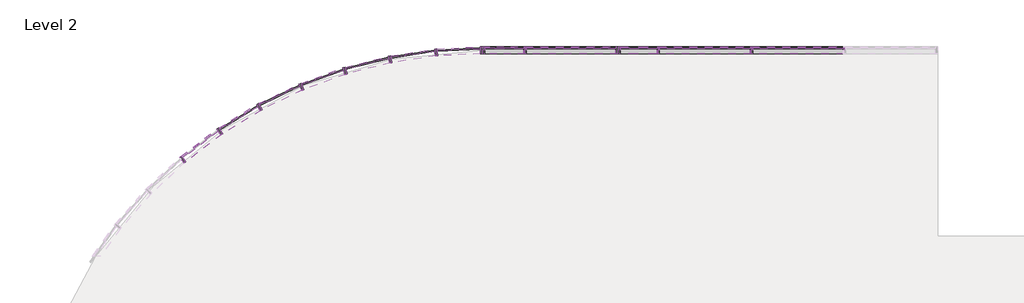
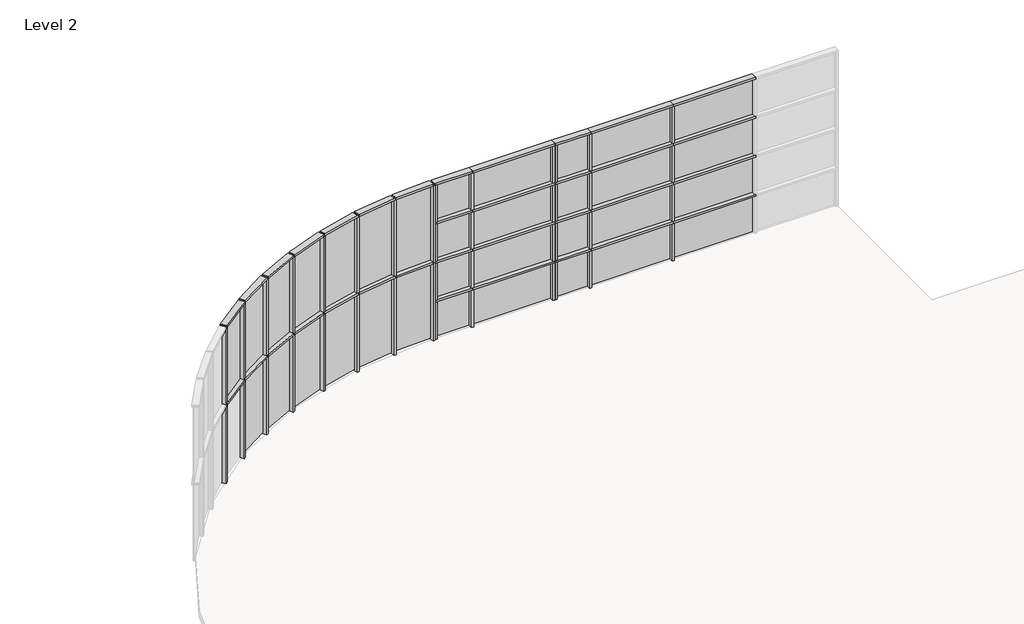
# One storey, part 5 of 6: 74 members, 33 plates.
"""IFC4 building model written with IfcOpenShell, lengths in millimetres."""

from ifc_helpers import new_model, si_unit, origin, place, context, project, spatial, transform, mapped, element, save
from components import rectangular_mullion_50_x_150mm_a053b0ca, rectangular_mullion_50_x_150mm_aa47fe12, rectangular_mullion_50_x_150mm_3a148f0f, rectangular_mullion_50_x_150mm_12a430f9, rectangular_mullion_50_x_150mm_25f32059, rectangular_mullion_50_x_150mm_f8023bcf, rectangular_mullion_50_x_150mm_9aace082, rectangular_mullion_50_x_150mm_f1bc9ffe, system_panel_glazed_751a585c, system_panel_glazed_08de6f5f, system_panel_glazed_c2d2b348, system_panel_glazed_b9387e44, system_panel_glazed_252945b7, system_panel_glazed_3868a10e

model = new_model("IFC4")

# Units and contexts
model_context = context("Model", 3, world=origin())
ifc_project = project(units=[si_unit("LENGTHUNIT", "METRE", prefix="MILLI")], contexts=[model_context])

# Site, building, storey
site = spatial("IfcSite", under=ifc_project)
building = spatial("IfcBuilding", under=site)
storey = spatial("IfcBuildingStorey", under=building, Name="Level 2", Elevation=4000.0)

# Members
placement = place(None, origin())
rectangular_mullion_50_x_150mm_shape = rectangular_mullion_50_x_150mm_a053b0ca(model_context)
element("IfcMember", 1, ObjectType="Rectangular Mullion : 50 x 150mm", at=placement, inside=storey, context=model_context, shape_type="MappedRepresentation", body=[
    mapped(rectangular_mullion_50_x_150mm_shape, transform((-7587.173406, 8375.9839566, 4025.0), x_axis=(-1.0, 0.0, 0.0), y_axis=(0.0, 1.0, 0.0), z_axis=(0.0, 0.0, -1.0))),
])
element("IfcMember", 2, ObjectType="Rectangular Mullion : 50 x 150mm", at=placement, inside=storey, context=model_context, shape_type="MappedRepresentation", body=[
    mapped(rectangular_mullion_50_x_150mm_shape, transform((-7587.173406, 8375.9839566, 5025.0), x_axis=(-1.0, 0.0, 0.0), y_axis=(0.0, 1.0, 0.0), z_axis=(0.0, 0.0, -0.9999999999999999))),
])
element("IfcMember", 3, ObjectType="Rectangular Mullion : 50 x 150mm", at=placement, inside=storey, context=model_context, shape_type="MappedRepresentation", body=[
    mapped(rectangular_mullion_50_x_150mm_shape, transform((-7587.173406, 8375.9839566, 6025.0), x_axis=(-1.0, 0.0, 0.0), y_axis=(0.0, 1.0, 0.0), z_axis=(0.0, 0.0, -0.9999999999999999))),
])
element("IfcMember", 4, ObjectType="Rectangular Mullion : 50 x 150mm", at=placement, inside=storey, context=model_context, shape_type="MappedRepresentation", body=[
    mapped(rectangular_mullion_50_x_150mm_shape, transform((-7587.173406, 8375.9839566, 7025.0), x_axis=(-1.0, 0.0, 0.0), y_axis=(0.0, 1.0, 0.0), z_axis=(0.0, 0.0, -0.9999999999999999))),
])
element("IfcMember", 5, ObjectType="Rectangular Mullion : 50 x 150mm", at=placement, inside=storey, context=model_context, shape_type="MappedRepresentation", body=[
    mapped(rectangular_mullion_50_x_150mm_shape, transform((-4721.580781, 8375.9839566, 4025.0), x_axis=(-1.0, 0.0, 0.0), y_axis=(0.0, 1.0, 0.0), z_axis=(0.0, 0.0, -1.0))),
])
element("IfcMember", 6, ObjectType="Rectangular Mullion : 50 x 150mm", at=placement, inside=storey, context=model_context, shape_type="MappedRepresentation", body=[
    mapped(rectangular_mullion_50_x_150mm_shape, transform((-4721.580781, 8375.9839566, 5025.0), x_axis=(-1.0, 0.0, 0.0), y_axis=(0.0, 1.0, 0.0), z_axis=(0.0, 0.0, -0.9999999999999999))),
])
element("IfcMember", 7, ObjectType="Rectangular Mullion : 50 x 150mm", at=placement, inside=storey, context=model_context, shape_type="MappedRepresentation", body=[
    mapped(rectangular_mullion_50_x_150mm_shape, transform((-4721.580781, 8375.9839566, 6025.0), x_axis=(-1.0, 0.0, 0.0), y_axis=(0.0, 1.0, 0.0), z_axis=(0.0, 0.0, -0.9999999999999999))),
])
element("IfcMember", 8, ObjectType="Rectangular Mullion : 50 x 150mm", at=placement, inside=storey, context=model_context, shape_type="MappedRepresentation", body=[
    mapped(rectangular_mullion_50_x_150mm_shape, transform((-4721.580781, 8375.9839566, 7025.0), x_axis=(-1.0, 0.0, 0.0), y_axis=(0.0, 1.0, 0.0), z_axis=(0.0, 0.0, -1.0))),
])
element("IfcMember", 9, ObjectType="Rectangular Mullion : 50 x 150mm", at=placement, inside=storey, context=model_context, shape_type="MappedRepresentation", body=[
    mapped(rectangular_mullion_50_x_150mm_shape, transform((-2721.580781, 8375.9839566, 4025.0), x_axis=(-1.0, 0.0, 0.0), y_axis=(0.0, 1.0, 0.0), z_axis=(0.0, 0.0, -1.0))),
])
element("IfcMember", 10, ObjectType="Rectangular Mullion : 50 x 150mm", at=placement, inside=storey, context=model_context, shape_type="MappedRepresentation", body=[
    mapped(rectangular_mullion_50_x_150mm_shape, transform((-2721.580781, 8375.9839566, 5025.0), x_axis=(-1.0, 0.0, 0.0), y_axis=(0.0, 1.0, 0.0), z_axis=(0.0, 0.0, -0.9999999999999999))),
])
element("IfcMember", 11, ObjectType="Rectangular Mullion : 50 x 150mm", at=placement, inside=storey, context=model_context, shape_type="MappedRepresentation", body=[
    mapped(rectangular_mullion_50_x_150mm_shape, transform((-2721.580781, 8375.9839566, 6025.0), x_axis=(-1.0, 0.0, 0.0), y_axis=(0.0, 1.0, 0.0), z_axis=(0.0, 0.0, -0.9999999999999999))),
])
element("IfcMember", 12, ObjectType="Rectangular Mullion : 50 x 150mm", at=placement, inside=storey, context=model_context, shape_type="MappedRepresentation", body=[
    mapped(rectangular_mullion_50_x_150mm_shape, transform((-2721.580781, 8375.9839566, 7025.0), x_axis=(-1.0, 0.0, 0.0), y_axis=(0.0, 1.0, 0.0), z_axis=(0.0, 0.0, -1.0))),
])
rectangular_mullion_50_x_150mm_2_shape = rectangular_mullion_50_x_150mm_aa47fe12(model_context)
element("IfcMember", 13, ObjectType="Rectangular Mullion : 50 x 150mm", at=placement, inside=storey, context=model_context, shape_type="MappedRepresentation", body=[
    mapped(rectangular_mullion_50_x_150mm_2_shape, transform((-8496.7339025, 8375.9839566, 6000.0), x_axis=(0.998749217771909, 0.049999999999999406, 0.0), y_axis=(-0.049999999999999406, 0.998749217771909, 0.0), z_axis=(0.0, 0.0, 1.0))),
])
element("IfcMember", 14, ObjectType="Rectangular Mullion : 50 x 150mm", at=placement, inside=storey, context=model_context, shape_type="MappedRepresentation", body=[
    mapped(rectangular_mullion_50_x_150mm_2_shape, transform((-8496.7339025, 8375.9839566, 8000.0), x_axis=(0.998749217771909, 0.049999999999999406, 0.0), y_axis=(-0.049999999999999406, 0.998749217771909, 0.0), z_axis=(0.0, 0.0, 1.0))),
])
rectangular_mullion_50_x_150mm_3_shape = rectangular_mullion_50_x_150mm_3a148f0f(model_context)
element("IfcMember", 15, ObjectType="Rectangular Mullion : 50 x 150mm", at=placement, inside=storey, context=model_context, shape_type="MappedRepresentation", body=[
    mapped(rectangular_mullion_50_x_150mm_3_shape, transform((-9495.4831202, 8325.9839566, 4000.0), x_axis=(-0.9950000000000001, -0.09987492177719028, 0.0), y_axis=(-0.09987492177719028, 0.9950000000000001, 0.0), z_axis=(0.0, 0.0, -1.0))),
])
element("IfcMember", 16, ObjectType="Rectangular Mullion : 50 x 150mm", at=placement, inside=storey, context=model_context, shape_type="MappedRepresentation", body=[
    mapped(rectangular_mullion_50_x_150mm_3_shape, transform((-9495.4831202, 8325.9839566, 6000.0), x_axis=(-0.9950000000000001, -0.09987492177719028, 0.0), y_axis=(-0.09987492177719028, 0.9950000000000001, 0.0), z_axis=(0.0, 0.0, -1.0))),
])
element("IfcMember", 17, ObjectType="Rectangular Mullion : 50 x 150mm", at=placement, inside=storey, context=model_context, shape_type="MappedRepresentation", body=[
    mapped(rectangular_mullion_50_x_150mm_3_shape, transform((-10484.2448458, 8176.4839566, 4000.0), x_axis=(-0.9800500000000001, -0.1987510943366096, 0.0), y_axis=(-0.1987510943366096, 0.9800500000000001, 0.0), z_axis=(0.0, 0.0, -1.0))),
])
element("IfcMember", 18, ObjectType="Rectangular Mullion : 50 x 150mm", at=placement, inside=storey, context=model_context, shape_type="MappedRepresentation", body=[
    mapped(rectangular_mullion_50_x_150mm_3_shape, transform((-10484.2448458, 8176.4839566, 6000.0), x_axis=(-0.9800500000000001, -0.1987510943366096, 0.0), y_axis=(-0.1987510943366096, 0.9800500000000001, 0.0), z_axis=(0.0, 0.0, -1.0))),
])
element("IfcMember", 19, ObjectType="Rectangular Mullion : 50 x 150mm", at=placement, inside=storey, context=model_context, shape_type="MappedRepresentation", body=[
    mapped(rectangular_mullion_50_x_150mm_3_shape, transform((-11453.131462, 7928.9789566, 4000.0), x_axis=(-0.9552995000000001, -0.29563975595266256, 0.0), y_axis=(-0.29563975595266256, 0.9552995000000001, 0.0), z_axis=(0.0, 0.0, -1.0))),
])
element("IfcMember", 20, ObjectType="Rectangular Mullion : 50 x 150mm", at=placement, inside=storey, context=model_context, shape_type="MappedRepresentation", body=[
    mapped(rectangular_mullion_50_x_150mm_3_shape, transform((-11453.131462, 7928.9789566, 6000.0), x_axis=(-0.9552995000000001, -0.29563975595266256, 0.0), y_axis=(-0.29563975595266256, 0.9552995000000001, 0.0), z_axis=(0.0, 0.0, -1.0))),
])
element("IfcMember", 21, ObjectType="Rectangular Mullion : 50 x 150mm", at=placement, inside=storey, context=model_context, shape_type="MappedRepresentation", body=[
    mapped(rectangular_mullion_50_x_150mm_3_shape, transform((-12392.4541026, 7585.9440066, 4000.0), x_axis=(-0.9209960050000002, -0.38957202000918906, 0.0), y_axis=(-0.38957202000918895, 0.920996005, 0.0), z_axis=(0.0, 0.0, -1.0))),
])
element("IfcMember", 22, ObjectType="Rectangular Mullion : 50 x 150mm", at=placement, inside=storey, context=model_context, shape_type="MappedRepresentation", body=[
    mapped(rectangular_mullion_50_x_150mm_3_shape, transform((-12392.4541026, 7585.9440066, 6000.0), x_axis=(-0.9209960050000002, -0.38957202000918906, 0.0), y_axis=(-0.38957202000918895, 0.920996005, 0.0), z_axis=(0.0, 0.0, -1.0))),
])
element("IfcMember", 23, ObjectType="Rectangular Mullion : 50 x 150mm", at=placement, inside=storey, context=model_context, shape_type="MappedRepresentation", body=[
    mapped(rectangular_mullion_50_x_150mm_3_shape, transform((-13292.8195411, 7150.8094561, 4000.0), x_axis=(-0.87748254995, -0.4796085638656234, 0.0), y_axis=(-0.4796085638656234, 0.87748254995, 0.0), z_axis=(0.0, 0.0, -1.0))),
])
element("IfcMember", 24, ObjectType="Rectangular Mullion : 50 x 150mm", at=placement, inside=storey, context=model_context, shape_type="MappedRepresentation", body=[
    mapped(rectangular_mullion_50_x_150mm_3_shape, transform((-13292.8195411, 7150.8094561, 6000.0), x_axis=(-0.87748254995, -0.4796085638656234, 0.0), y_axis=(-0.4796085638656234, 0.87748254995, 0.0), z_axis=(0.0, 0.0, -1.0))),
])
element("IfcMember", 25, ObjectType="Rectangular Mullion : 50 x 150mm", at=placement, inside=storey, context=model_context, shape_type="MappedRepresentation", body=[
    mapped(rectangular_mullion_50_x_150mm_3_shape, transform((-14145.2241233, 6627.9266506, 4000.0), x_axis=(-0.8251942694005, -0.5648490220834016, 0.0), y_axis=(-0.5648490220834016, 0.8251942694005, 0.0), z_axis=(0.0, 0.0, -1.0))),
])
element("IfcMember", 26, ObjectType="Rectangular Mullion : 50 x 150mm", at=placement, inside=storey, context=model_context, shape_type="MappedRepresentation", body=[
    mapped(rectangular_mullion_50_x_150mm_3_shape, transform((-14145.2241233, 6627.9266506, 6000.0), x_axis=(-0.8251942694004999, -0.564849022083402, 0.0), y_axis=(-0.5648490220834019, 0.8251942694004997, 0.0), z_axis=(0.0, 0.0, -1.0))),
])
element("IfcMember", 27, ObjectType="Rectangular Mullion : 50 x 150mm", at=placement, inside=storey, context=model_context, shape_type="MappedRepresentation", body=[
    mapped(rectangular_mullion_50_x_150mm_3_shape, transform((-14941.1438033, 6022.5244181, 4000.0), x_axis=(-0.7646540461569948, -0.6444409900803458, 0.0), y_axis=(-0.6444409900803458, 0.7646540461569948, 0.0), z_axis=(0.0, 0.0, -1.0))),
])
element("IfcMember", 28, ObjectType="Rectangular Mullion : 50 x 150mm", at=placement, inside=storey, context=model_context, shape_type="MappedRepresentation", body=[
    mapped(rectangular_mullion_50_x_150mm_3_shape, transform((-14941.1438033, 6022.5244181, 6000.0), x_axis=(-0.7646540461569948, -0.6444409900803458, 0.0), y_axis=(-0.6444409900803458, 0.7646540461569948, 0.0), z_axis=(0.0, 0.0, -1.0))),
])
element("IfcMember", 29, ObjectType="Rectangular Mullion : 50 x 150mm", at=placement, inside=storey, context=model_context, shape_type="MappedRepresentation", body=[
    mapped(rectangular_mullion_50_x_150mm_3_shape, transform((-2721.580781, 8375.9839566, 5000.0), x_axis=(0.0, 0.0, 1.0), y_axis=(0.0, 1.0, 0.0), z_axis=(-1.0, 0.0, 0.0))),
])
element("IfcMember", 30, ObjectType="Rectangular Mullion : 50 x 150mm", at=placement, inside=storey, context=model_context, shape_type="MappedRepresentation", body=[
    mapped(rectangular_mullion_50_x_150mm_3_shape, transform((-4721.580781, 8375.9839566, 5000.0), x_axis=(0.0, 0.0, 1.0), y_axis=(0.0, 1.0, 0.0), z_axis=(-1.0, 0.0, 0.0))),
])
element("IfcMember", 31, ObjectType="Rectangular Mullion : 50 x 150mm", at=placement, inside=storey, context=model_context, shape_type="MappedRepresentation", body=[
    mapped(rectangular_mullion_50_x_150mm_3_shape, transform((-2721.580781, 8375.9839566, 6000.0), x_axis=(0.0, 0.0, 1.0), y_axis=(0.0, 1.0, 0.0), z_axis=(-1.0, 0.0, 0.0))),
])
element("IfcMember", 32, ObjectType="Rectangular Mullion : 50 x 150mm", at=placement, inside=storey, context=model_context, shape_type="MappedRepresentation", body=[
    mapped(rectangular_mullion_50_x_150mm_3_shape, transform((-4721.580781, 8375.9839566, 6000.0), x_axis=(0.0, 0.0, 1.0), y_axis=(0.0, 1.0, 0.0), z_axis=(-1.0, 0.0, 0.0))),
])
element("IfcMember", 33, ObjectType="Rectangular Mullion : 50 x 150mm", at=placement, inside=storey, context=model_context, shape_type="MappedRepresentation", body=[
    mapped(rectangular_mullion_50_x_150mm_3_shape, transform((-2721.580781, 8375.9839566, 7000.0), x_axis=(0.0, 0.0, 1.0), y_axis=(0.0, 1.0, 0.0), z_axis=(-1.0, 0.0, 0.0))),
])
element("IfcMember", 34, ObjectType="Rectangular Mullion : 50 x 150mm", at=placement, inside=storey, context=model_context, shape_type="MappedRepresentation", body=[
    mapped(rectangular_mullion_50_x_150mm_3_shape, transform((-4721.580781, 8375.9839566, 7000.0), x_axis=(0.0, 0.0, 1.0), y_axis=(0.0, 1.0, 0.0), z_axis=(-1.0, 0.0, 0.0))),
])
element("IfcMember", 35, ObjectType="Rectangular Mullion : 50 x 150mm", at=placement, inside=storey, context=model_context, shape_type="MappedRepresentation", body=[
    mapped(rectangular_mullion_50_x_150mm_3_shape, transform((-2721.580781, 8375.9839566, 8000.0), x_axis=(0.0, 0.0, 1.0), y_axis=(0.0, 1.0, 0.0), z_axis=(-1.0, 0.0, 0.0))),
])
element("IfcMember", 36, ObjectType="Rectangular Mullion : 50 x 150mm", at=placement, inside=storey, context=model_context, shape_type="MappedRepresentation", body=[
    mapped(rectangular_mullion_50_x_150mm_3_shape, transform((-4721.580781, 8375.9839566, 8000.0), x_axis=(0.0, 0.0, 1.0), y_axis=(0.0, 1.0, 0.0), z_axis=(-1.0, 0.0, 0.0))),
])
rectangular_mullion_50_x_150mm_4_shape = rectangular_mullion_50_x_150mm_12a430f9(model_context)
element("IfcMember", 37, ObjectType="Rectangular Mullion : 50 x 150mm", at=placement, inside=storey, context=model_context, shape_type="MappedRepresentation", body=[
    mapped(rectangular_mullion_50_x_150mm_4_shape, transform((-5587.173406, 8375.9839566, 4975.0), x_axis=(1.0, 0.0, 0.0), y_axis=(0.0, 1.0, 0.0), z_axis=(0.0, 0.0, 1.0))),
])
element("IfcMember", 38, ObjectType="Rectangular Mullion : 50 x 150mm", at=placement, inside=storey, context=model_context, shape_type="MappedRepresentation", body=[
    mapped(rectangular_mullion_50_x_150mm_4_shape, transform((-5587.173406, 8375.9839566, 5975.0), x_axis=(1.0, 0.0, 0.0), y_axis=(0.0, 1.0, 0.0), z_axis=(0.0, 0.0, 0.9999999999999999))),
])
element("IfcMember", 39, ObjectType="Rectangular Mullion : 50 x 150mm", at=placement, inside=storey, context=model_context, shape_type="MappedRepresentation", body=[
    mapped(rectangular_mullion_50_x_150mm_4_shape, transform((-5587.173406, 8375.9839566, 6975.0), x_axis=(1.0, 0.0, 0.0), y_axis=(0.0, 1.0, 0.0), z_axis=(0.0, 0.0, 0.9999999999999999))),
])
element("IfcMember", 40, ObjectType="Rectangular Mullion : 50 x 150mm", at=placement, inside=storey, context=model_context, shape_type="MappedRepresentation", body=[
    mapped(rectangular_mullion_50_x_150mm_4_shape, transform((-5587.173406, 8375.9839566, 7975.0), x_axis=(1.0, 0.0, 0.0), y_axis=(0.0, 1.0, 0.0), z_axis=(0.0, 0.0, 1.0))),
])
element("IfcMember", 41, ObjectType="Rectangular Mullion : 50 x 150mm", at=placement, inside=storey, context=model_context, shape_type="MappedRepresentation", body=[
    mapped(rectangular_mullion_50_x_150mm_4_shape, transform((-8496.7339025, 8375.9839566, 4025.0), x_axis=(-1.0, 0.0, 0.0), y_axis=(0.0, 1.0, 0.0), z_axis=(0.0, 0.0, -1.0))),
])
element("IfcMember", 42, ObjectType="Rectangular Mullion : 50 x 150mm", at=placement, inside=storey, context=model_context, shape_type="MappedRepresentation", body=[
    mapped(rectangular_mullion_50_x_150mm_4_shape, transform((-8496.7339025, 8375.9839566, 5025.0), x_axis=(-1.0, 0.0, 0.0), y_axis=(0.0, 1.0, 0.0), z_axis=(0.0, 0.0, -0.9999999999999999))),
])
element("IfcMember", 43, ObjectType="Rectangular Mullion : 50 x 150mm", at=placement, inside=storey, context=model_context, shape_type="MappedRepresentation", body=[
    mapped(rectangular_mullion_50_x_150mm_4_shape, transform((-8496.7339025, 8375.9839566, 6025.0), x_axis=(-1.0, 0.0, 0.0), y_axis=(0.0, 1.0, 0.0), z_axis=(0.0, 0.0, -0.9999999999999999))),
])
element("IfcMember", 44, ObjectType="Rectangular Mullion : 50 x 150mm", at=placement, inside=storey, context=model_context, shape_type="MappedRepresentation", body=[
    mapped(rectangular_mullion_50_x_150mm_4_shape, transform((-8496.7339025, 8375.9839566, 7025.0), x_axis=(-1.0, 0.0, 0.0), y_axis=(0.0, 1.0, 0.0), z_axis=(0.0, 0.0, -1.0))),
])
element("IfcMember", 45, ObjectType="Rectangular Mullion : 50 x 150mm", at=placement, inside=storey, context=model_context, shape_type="MappedRepresentation", body=[
    mapped(rectangular_mullion_50_x_150mm_4_shape, transform((-5587.173406, 8375.9839566, 4025.0), x_axis=(-1.0, 0.0, 0.0), y_axis=(0.0, 1.0, 0.0), z_axis=(0.0, 0.0, -1.0))),
])
element("IfcMember", 46, ObjectType="Rectangular Mullion : 50 x 150mm", at=placement, inside=storey, context=model_context, shape_type="MappedRepresentation", body=[
    mapped(rectangular_mullion_50_x_150mm_4_shape, transform((-5587.173406, 8375.9839566, 5025.0), x_axis=(-1.0, 0.0, 0.0), y_axis=(0.0, 1.0, 0.0), z_axis=(0.0, 0.0, -0.9999999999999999))),
])
element("IfcMember", 47, ObjectType="Rectangular Mullion : 50 x 150mm", at=placement, inside=storey, context=model_context, shape_type="MappedRepresentation", body=[
    mapped(rectangular_mullion_50_x_150mm_4_shape, transform((-5587.173406, 8375.9839566, 6025.0), x_axis=(-1.0, 0.0, 0.0), y_axis=(0.0, 1.0, 0.0), z_axis=(0.0, 0.0, -0.9999999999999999))),
])
element("IfcMember", 48, ObjectType="Rectangular Mullion : 50 x 150mm", at=placement, inside=storey, context=model_context, shape_type="MappedRepresentation", body=[
    mapped(rectangular_mullion_50_x_150mm_4_shape, transform((-5587.173406, 8375.9839566, 7025.0), x_axis=(-1.0, 0.0, 0.0), y_axis=(0.0, 1.0, 0.0), z_axis=(0.0, 0.0, -1.0))),
])
rectangular_mullion_50_x_150mm_5_shape = rectangular_mullion_50_x_150mm_25f32059(model_context)
element("IfcMember", 49, ObjectType="Rectangular Mullion : 50 x 150mm", at=placement, inside=storey, context=model_context, shape_type="MappedRepresentation", body=[
    mapped(rectangular_mullion_50_x_150mm_5_shape, transform((-10459.5258027, 8180.2214566, 6000.0), x_axis=(0.0, 0.0, 0.9999999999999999), y_axis=(-0.14950000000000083, 0.9887617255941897, 0.0), z_axis=(-0.9887617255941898, -0.14950000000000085, 0.0))),
])
element("IfcMember", 50, ObjectType="Rectangular Mullion : 50 x 150mm", at=placement, inside=storey, context=model_context, shape_type="MappedRepresentation", body=[
    mapped(rectangular_mullion_50_x_150mm_5_shape, transform((-11428.9092966, 7935.1665816, 6000.0), x_axis=(0.0, 0.0, 0.9999999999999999), y_axis=(-0.24750499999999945, 0.9688866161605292, 0.0), z_axis=(-0.9688866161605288, -0.24750499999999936, 0.0))),
])
element("IfcMember", 51, ObjectType="Rectangular Mullion : 50 x 150mm", at=placement, inside=storey, context=model_context, shape_type="MappedRepresentation", body=[
    mapped(rectangular_mullion_50_x_150mm_5_shape, transform((-12368.9710366, 7594.5198803, 6000.0), x_axis=(0.0, 0.0, 0.9999999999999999), y_axis=(-0.34303495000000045, 0.9393226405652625, 0.0), z_axis=(-0.9393226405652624, -0.34303495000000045, 0.0))),
])
element("IfcMember", 52, ObjectType="Rectangular Mullion : 50 x 150mm", at=placement, inside=storey, context=model_context, shape_type="MappedRepresentation", body=[
    mapped(rectangular_mullion_50_x_150mm_5_shape, transform((-13270.3104052, 7161.6878198, 6000.0), x_axis=(0.0, 0.0, 1.0), y_axis=(-0.4351345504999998, 0.9003654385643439, 0.0), z_axis=(-0.9003654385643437, -0.43513455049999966, 0.0))),
])
element("IfcMember", 53, ObjectType="Rectangular Mullion : 50 x 150mm", at=placement, inside=storey, context=model_context, shape_type="MappedRepresentation", body=[
    mapped(rectangular_mullion_50_x_150mm_5_shape, transform((-14123.9140088, 6640.9987207, 6000.0), x_axis=(0.0, 0.0, 1.0), y_axis=(-0.5228828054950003, 0.8524045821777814, 0.0), z_axis=(-0.8524045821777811, -0.5228828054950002, 0.0))),
])
element("IfcMember", 54, ObjectType="Rectangular Mullion : 50 x 150mm", at=placement, inside=storey, context=model_context, shape_type="MappedRepresentation", body=[
    mapped(rectangular_mullion_50_x_150mm_5_shape, transform((-14921.2458113, 6037.6594739, 6000.0), x_axis=(0.0, 0.0, 1.0), y_axis=(-0.6054022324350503, 0.795919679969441, 0.0), z_axis=(-0.795919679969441, -0.6054022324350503, 0.0))),
])
element("IfcMember", 55, ObjectType="Rectangular Mullion : 50 x 150mm", at=placement, inside=storey, context=model_context, shape_type="MappedRepresentation", body=[
    mapped(rectangular_mullion_50_x_150mm_5_shape, transform((-10459.5258027, 8180.2214566, 8000.0), x_axis=(0.0, 0.0, 0.9999999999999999), y_axis=(-0.14950000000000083, 0.9887617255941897, 0.0), z_axis=(-0.9887617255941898, -0.14950000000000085, 0.0))),
])
element("IfcMember", 56, ObjectType="Rectangular Mullion : 50 x 150mm", at=placement, inside=storey, context=model_context, shape_type="MappedRepresentation", body=[
    mapped(rectangular_mullion_50_x_150mm_5_shape, transform((-11428.9092966, 7935.1665816, 8000.0), x_axis=(0.0, 0.0, 0.9999999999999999), y_axis=(-0.24750499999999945, 0.9688866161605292, 0.0), z_axis=(-0.9688866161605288, -0.24750499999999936, 0.0))),
])
element("IfcMember", 57, ObjectType="Rectangular Mullion : 50 x 150mm", at=placement, inside=storey, context=model_context, shape_type="MappedRepresentation", body=[
    mapped(rectangular_mullion_50_x_150mm_5_shape, transform((-12368.9710366, 7594.5198803, 8000.0), x_axis=(0.0, 0.0, 0.9999999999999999), y_axis=(-0.34303495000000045, 0.9393226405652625, 0.0), z_axis=(-0.9393226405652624, -0.34303495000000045, 0.0))),
])
element("IfcMember", 58, ObjectType="Rectangular Mullion : 50 x 150mm", at=placement, inside=storey, context=model_context, shape_type="MappedRepresentation", body=[
    mapped(rectangular_mullion_50_x_150mm_5_shape, transform((-13270.3104052, 7161.6878198, 8000.0), x_axis=(0.0, 0.0, 1.0), y_axis=(-0.4351345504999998, 0.9003654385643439, 0.0), z_axis=(-0.9003654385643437, -0.43513455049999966, 0.0))),
])
element("IfcMember", 59, ObjectType="Rectangular Mullion : 50 x 150mm", at=placement, inside=storey, context=model_context, shape_type="MappedRepresentation", body=[
    mapped(rectangular_mullion_50_x_150mm_5_shape, transform((-14123.9140088, 6640.9987207, 8000.0), x_axis=(0.0, 0.0, 1.0), y_axis=(-0.5228828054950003, 0.8524045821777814, 0.0), z_axis=(-0.8524045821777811, -0.5228828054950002, 0.0))),
])
element("IfcMember", 60, ObjectType="Rectangular Mullion : 50 x 150mm", at=placement, inside=storey, context=model_context, shape_type="MappedRepresentation", body=[
    mapped(rectangular_mullion_50_x_150mm_5_shape, transform((-14921.2458113, 6037.6594739, 8000.0), x_axis=(0.0, 0.0, 1.0), y_axis=(-0.6054022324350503, 0.795919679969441, 0.0), z_axis=(-0.795919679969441, -0.6054022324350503, 0.0))),
])
rectangular_mullion_50_x_150mm_6_shape = rectangular_mullion_50_x_150mm_f8023bcf(model_context)
element("IfcMember", 61, ObjectType="Rectangular Mullion : 50 x 150mm", at=placement, inside=storey, context=model_context, shape_type="MappedRepresentation", body=[
    mapped(rectangular_mullion_50_x_150mm_6_shape, transform((-9470.5143898, 8327.2339566, 6000.0), x_axis=(0.0, 0.0, 0.9999999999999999), y_axis=(-0.049999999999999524, 0.9987492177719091, 0.0), z_axis=(-0.998749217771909, -0.04999999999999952, 0.0))),
])
element("IfcMember", 62, ObjectType="Rectangular Mullion : 50 x 150mm", at=placement, inside=storey, context=model_context, shape_type="MappedRepresentation", body=[
    mapped(rectangular_mullion_50_x_150mm_6_shape, transform((-9470.5143898, 8327.2339566, 8000.0), x_axis=(0.0, 0.0, 0.9999999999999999), y_axis=(-0.049999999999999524, 0.9987492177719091, 0.0), z_axis=(-0.998749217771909, -0.04999999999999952, 0.0))),
])
rectangular_mullion_50_x_150mm_7_shape = rectangular_mullion_50_x_150mm_9aace082(model_context)
element("IfcMember", 63, ObjectType="Rectangular Mullion : 50 x 150mm", at=placement, inside=storey, context=model_context, shape_type="MappedRepresentation", body=[
    mapped(rectangular_mullion_50_x_150mm_7_shape, transform((-8496.7339025, 8375.9839566, 5000.0), x_axis=(0.0, 0.0, 1.0), y_axis=(0.0, 1.0, 0.0), z_axis=(-1.0, 0.0, 0.0))),
])
element("IfcMember", 64, ObjectType="Rectangular Mullion : 50 x 150mm", at=placement, inside=storey, context=model_context, shape_type="MappedRepresentation", body=[
    mapped(rectangular_mullion_50_x_150mm_7_shape, transform((-8496.7339025, 8375.9839566, 6000.0), x_axis=(0.0, 0.0, 1.0), y_axis=(0.0, 1.0, 0.0), z_axis=(-1.0, 0.0, 0.0))),
])
element("IfcMember", 65, ObjectType="Rectangular Mullion : 50 x 150mm", at=placement, inside=storey, context=model_context, shape_type="MappedRepresentation", body=[
    mapped(rectangular_mullion_50_x_150mm_7_shape, transform((-8496.7339025, 8375.9839566, 7000.0), x_axis=(0.0, 0.0, 1.0), y_axis=(0.0, 1.0, 0.0), z_axis=(-1.0, 0.0, 0.0))),
])
element("IfcMember", 66, ObjectType="Rectangular Mullion : 50 x 150mm", at=placement, inside=storey, context=model_context, shape_type="MappedRepresentation", body=[
    mapped(rectangular_mullion_50_x_150mm_7_shape, transform((-8496.7339025, 8375.9839566, 8000.0), x_axis=(0.0, 0.0, 1.0), y_axis=(0.0, 1.0, 0.0), z_axis=(-1.0, 0.0, 0.0))),
])
rectangular_mullion_50_x_150mm_8_shape = rectangular_mullion_50_x_150mm_f1bc9ffe(model_context)
element("IfcMember", 67, ObjectType="Rectangular Mullion : 50 x 150mm", at=placement, inside=storey, context=model_context, shape_type="MappedRepresentation", body=[
    mapped(rectangular_mullion_50_x_150mm_8_shape, transform((-5587.173406, 8375.9839566, 5000.0), x_axis=(0.0, 0.0, 1.0), y_axis=(0.0, 1.0, 0.0), z_axis=(-1.0, 0.0, 0.0))),
])
element("IfcMember", 68, ObjectType="Rectangular Mullion : 50 x 150mm", at=placement, inside=storey, context=model_context, shape_type="MappedRepresentation", body=[
    mapped(rectangular_mullion_50_x_150mm_8_shape, transform((-5587.173406, 8375.9839566, 6000.0), x_axis=(0.0, 0.0, 1.0), y_axis=(0.0, 1.0, 0.0), z_axis=(-1.0, 0.0, 0.0))),
])
element("IfcMember", 69, ObjectType="Rectangular Mullion : 50 x 150mm", at=placement, inside=storey, context=model_context, shape_type="MappedRepresentation", body=[
    mapped(rectangular_mullion_50_x_150mm_8_shape, transform((-5587.173406, 8375.9839566, 7000.0), x_axis=(0.0, 0.0, 1.0), y_axis=(0.0, 1.0, 0.0), z_axis=(-1.0, 0.0, 0.0))),
])
element("IfcMember", 70, ObjectType="Rectangular Mullion : 50 x 150mm", at=placement, inside=storey, context=model_context, shape_type="MappedRepresentation", body=[
    mapped(rectangular_mullion_50_x_150mm_8_shape, transform((-5587.173406, 8375.9839566, 8000.0), x_axis=(0.0, 0.0, 1.0), y_axis=(0.0, 1.0, 0.0), z_axis=(-1.0, 0.0, 0.0))),
])
element("IfcMember", 71, ObjectType="Rectangular Mullion : 50 x 150mm", at=placement, inside=storey, context=model_context, shape_type="MappedRepresentation", body=[
    mapped(rectangular_mullion_50_x_150mm_3_shape, transform((-7587.173406, 8375.9839566, 5000.0), x_axis=(0.0, 0.0, 1.0), y_axis=(0.0, 1.0, 0.0), z_axis=(-1.0, 0.0, 0.0))),
])
element("IfcMember", 72, ObjectType="Rectangular Mullion : 50 x 150mm", at=placement, inside=storey, context=model_context, shape_type="MappedRepresentation", body=[
    mapped(rectangular_mullion_50_x_150mm_3_shape, transform((-7587.173406, 8375.9839566, 6000.0), x_axis=(0.0, 0.0, 1.0), y_axis=(0.0, 1.0, 0.0), z_axis=(-1.0, 0.0, 0.0))),
])
element("IfcMember", 73, ObjectType="Rectangular Mullion : 50 x 150mm", at=placement, inside=storey, context=model_context, shape_type="MappedRepresentation", body=[
    mapped(rectangular_mullion_50_x_150mm_3_shape, transform((-7587.173406, 8375.9839566, 7000.0), x_axis=(0.0, 0.0, 1.0), y_axis=(0.0, 1.0, 0.0), z_axis=(-1.0, 0.0, 0.0))),
])
element("IfcMember", 74, ObjectType="Rectangular Mullion : 50 x 150mm", at=placement, inside=storey, context=model_context, shape_type="MappedRepresentation", body=[
    mapped(rectangular_mullion_50_x_150mm_3_shape, transform((-7587.173406, 8375.9839566, 8000.0), x_axis=(0.0, 0.0, 1.0), y_axis=(0.0, 1.0, 0.0), z_axis=(-1.0, 0.0, 0.0))),
])

# Plates
system_panel_glazed_shape = system_panel_glazed_751a585c(model_context)
element("IfcPlate", 75, ObjectType="System Panel : Glazed", at=placement, inside=storey, context=model_context, shape_type="MappedRepresentation", body=[
    mapped(system_panel_glazed_shape, transform((-5637.173406, 8375.9839566, 4500.0), x_axis=(0.0, 0.0, 1.0), y_axis=(0.0, 1.0, 0.0), z_axis=(-1.0, 0.0, 0.0))),
])
element("IfcPlate", 76, ObjectType="System Panel : Glazed", at=placement, inside=storey, context=model_context, shape_type="MappedRepresentation", body=[
    mapped(system_panel_glazed_shape, transform((-5637.173406, 8375.9839566, 5500.0), x_axis=(0.0, 0.0, 1.0), y_axis=(0.0, 1.0, 0.0), z_axis=(-1.0, 0.0, 0.0))),
])
element("IfcPlate", 77, ObjectType="System Panel : Glazed", at=placement, inside=storey, context=model_context, shape_type="MappedRepresentation", body=[
    mapped(system_panel_glazed_shape, transform((-5637.173406, 8375.9839566, 6500.0), x_axis=(0.0, 0.0, 1.0), y_axis=(0.0, 1.0, 0.0), z_axis=(-1.0, 0.0, 0.0))),
])
element("IfcPlate", 78, ObjectType="System Panel : Glazed", at=placement, inside=storey, context=model_context, shape_type="MappedRepresentation", body=[
    mapped(system_panel_glazed_shape, transform((-5637.173406, 8375.9839566, 7500.0), x_axis=(0.0, 0.0, 1.0), y_axis=(0.0, 1.0, 0.0), z_axis=(-1.0, 0.0, 0.0))),
])
system_panel_glazed_2_shape = system_panel_glazed_08de6f5f(model_context)
element("IfcPlate", 79, ObjectType="System Panel : Glazed", at=placement, inside=storey, context=model_context, shape_type="MappedRepresentation", body=[
    mapped(system_panel_glazed_2_shape, transform((-746.580781, 8375.9839566, 4500.0), x_axis=(0.0, 0.0, 1.0), y_axis=(0.0, 1.0, 0.0), z_axis=(-1.0, 0.0, 0.0))),
])
element("IfcPlate", 80, ObjectType="System Panel : Glazed", at=placement, inside=storey, context=model_context, shape_type="MappedRepresentation", body=[
    mapped(system_panel_glazed_2_shape, transform((-746.580781, 8375.9839566, 5500.0), x_axis=(0.0, 0.0, 1.0), y_axis=(0.0, 1.0, 0.0), z_axis=(-1.0, 0.0, 0.0))),
])
element("IfcPlate", 81, ObjectType="System Panel : Glazed", at=placement, inside=storey, context=model_context, shape_type="MappedRepresentation", body=[
    mapped(system_panel_glazed_2_shape, transform((-746.580781, 8375.9839566, 6500.0), x_axis=(0.0, 0.0, 1.0), y_axis=(0.0, 1.0, 0.0), z_axis=(-1.0, 0.0, 0.0))),
])
element("IfcPlate", 82, ObjectType="System Panel : Glazed", at=placement, inside=storey, context=model_context, shape_type="MappedRepresentation", body=[
    mapped(system_panel_glazed_2_shape, transform((-746.580781, 8375.9839566, 7500.0), x_axis=(0.0, 0.0, 1.0), y_axis=(0.0, 1.0, 0.0), z_axis=(-1.0, 0.0, 0.0))),
])
element("IfcPlate", 83, ObjectType="System Panel : Glazed", at=placement, inside=storey, context=model_context, shape_type="MappedRepresentation", body=[
    mapped(system_panel_glazed_2_shape, transform((-2746.580781, 8375.9839566, 4500.0), x_axis=(0.0, 0.0, 1.0), y_axis=(0.0, 1.0, 0.0), z_axis=(-1.0, 0.0, 0.0))),
])
element("IfcPlate", 84, ObjectType="System Panel : Glazed", at=placement, inside=storey, context=model_context, shape_type="MappedRepresentation", body=[
    mapped(system_panel_glazed_2_shape, transform((-2746.580781, 8375.9839566, 5500.0), x_axis=(0.0, 0.0, 1.0), y_axis=(0.0, 1.0, 0.0), z_axis=(-1.0, 0.0, 0.0))),
])
element("IfcPlate", 85, ObjectType="System Panel : Glazed", at=placement, inside=storey, context=model_context, shape_type="MappedRepresentation", body=[
    mapped(system_panel_glazed_2_shape, transform((-2746.580781, 8375.9839566, 6500.0), x_axis=(0.0, 0.0, 1.0), y_axis=(0.0, 1.0, 0.0), z_axis=(-1.0, 0.0, 0.0))),
])
element("IfcPlate", 86, ObjectType="System Panel : Glazed", at=placement, inside=storey, context=model_context, shape_type="MappedRepresentation", body=[
    mapped(system_panel_glazed_2_shape, transform((-2746.580781, 8375.9839566, 7500.0), x_axis=(0.0, 0.0, 1.0), y_axis=(0.0, 1.0, 0.0), z_axis=(-1.0, 0.0, 0.0))),
])
system_panel_glazed_3_shape = system_panel_glazed_c2d2b348(model_context)
element("IfcPlate", 87, ObjectType="System Panel : Glazed", at=placement, inside=storey, context=model_context, shape_type="MappedRepresentation", body=[
    mapped(system_panel_glazed_3_shape, transform((-9008.5928766, 8350.3589566, 4025.0), x_axis=(-0.998749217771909, -0.049999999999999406, 0.0), y_axis=(0.049999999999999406, -0.998749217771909, 0.0), z_axis=(0.0, 0.0, 1.0))),
])
element("IfcPlate", 88, ObjectType="System Panel : Glazed", at=placement, inside=storey, context=model_context, shape_type="MappedRepresentation", body=[
    mapped(system_panel_glazed_3_shape, transform((-9008.5928766, 8350.3589566, 6025.0), x_axis=(-0.998749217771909, -0.049999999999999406, 0.0), y_axis=(0.049999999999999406, -0.998749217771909, 0.0), z_axis=(0.0, 0.0, 1.0))),
])
system_panel_glazed_4_shape = system_panel_glazed_b9387e44(model_context)
element("IfcPlate", 89, ObjectType="System Panel : Glazed", at=placement, inside=storey, context=model_context, shape_type="MappedRepresentation", body=[
    mapped(system_panel_glazed_4_shape, transform((-9989.863983, 8251.2339566, 4025.0), x_axis=(-0.9887617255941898, -0.1495000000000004, 0.0), y_axis=(0.1495000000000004, -0.9887617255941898, 0.0), z_axis=(0.0, 0.0, 1.0))),
])
element("IfcPlate", 90, ObjectType="System Panel : Glazed", at=placement, inside=storey, context=model_context, shape_type="MappedRepresentation", body=[
    mapped(system_panel_glazed_4_shape, transform((-10968.6881539, 8052.7314566, 4025.0), x_axis=(-0.9688866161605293, -0.24750499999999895, 0.0), y_axis=(0.24750499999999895, -0.9688866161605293, 0.0), z_axis=(0.0, 0.0, 1.0))),
])
element("IfcPlate", 91, ObjectType="System Panel : Glazed", at=placement, inside=storey, context=model_context, shape_type="MappedRepresentation", body=[
    mapped(system_panel_glazed_4_shape, transform((-11922.7927823, 7757.4614816, 4025.0), x_axis=(-0.9393226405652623, -0.3430349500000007, 0.0), y_axis=(0.3430349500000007, -0.9393226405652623, 0.0), z_axis=(0.0, 0.0, 1.0))),
])
element("IfcPlate", 92, ObjectType="System Panel : Glazed", at=placement, inside=storey, context=model_context, shape_type="MappedRepresentation", body=[
    mapped(system_panel_glazed_4_shape, transform((-12842.6368218, 7368.3767313, 4025.0), x_axis=(-0.9003654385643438, -0.43513455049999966, 0.0), y_axis=(0.43513455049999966, -0.9003654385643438, 0.0), z_axis=(0.0, 0.0, 1.0))),
])
element("IfcPlate", 93, ObjectType="System Panel : Glazed", at=placement, inside=storey, context=model_context, shape_type="MappedRepresentation", body=[
    mapped(system_panel_glazed_4_shape, transform((-13719.0218322, 6889.3680533, 4025.0), x_axis=(-0.8524045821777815, -0.5228828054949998, 0.0), y_axis=(0.5228828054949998, -0.8524045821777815, 0.0), z_axis=(0.0, 0.0, 1.0))),
])
element("IfcPlate", 94, ObjectType="System Panel : Glazed", at=placement, inside=storey, context=model_context, shape_type="MappedRepresentation", body=[
    mapped(system_panel_glazed_4_shape, transform((-9989.863983, 8251.2339566, 6025.0), x_axis=(-0.9887617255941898, -0.1495000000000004, 0.0), y_axis=(0.1495000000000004, -0.9887617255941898, 0.0), z_axis=(0.0, 0.0, 1.0))),
])
element("IfcPlate", 95, ObjectType="System Panel : Glazed", at=placement, inside=storey, context=model_context, shape_type="MappedRepresentation", body=[
    mapped(system_panel_glazed_4_shape, transform((-10968.6881539, 8052.7314566, 6025.0), x_axis=(-0.9688866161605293, -0.24750499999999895, 0.0), y_axis=(0.24750499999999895, -0.9688866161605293, 0.0), z_axis=(0.0, 0.0, 1.0))),
])
element("IfcPlate", 96, ObjectType="System Panel : Glazed", at=placement, inside=storey, context=model_context, shape_type="MappedRepresentation", body=[
    mapped(system_panel_glazed_4_shape, transform((-11922.7927823, 7757.4614816, 6025.0), x_axis=(-0.9393226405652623, -0.3430349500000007, 0.0), y_axis=(0.3430349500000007, -0.9393226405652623, 0.0), z_axis=(0.0, 0.0, 1.0))),
])
element("IfcPlate", 97, ObjectType="System Panel : Glazed", at=placement, inside=storey, context=model_context, shape_type="MappedRepresentation", body=[
    mapped(system_panel_glazed_4_shape, transform((-12842.6368218, 7368.3767313, 6025.0), x_axis=(-0.9003654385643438, -0.43513455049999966, 0.0), y_axis=(0.43513455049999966, -0.9003654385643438, 0.0), z_axis=(0.0, 0.0, 1.0))),
])
element("IfcPlate", 98, ObjectType="System Panel : Glazed", at=placement, inside=storey, context=model_context, shape_type="MappedRepresentation", body=[
    mapped(system_panel_glazed_4_shape, transform((-13719.0218322, 6889.3680533, 6025.0), x_axis=(-0.8524045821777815, -0.5228828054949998, 0.0), y_axis=(0.5228828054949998, -0.8524045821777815, 0.0), z_axis=(0.0, 0.0, 1.0))),
])
element("IfcPlate", 99, ObjectType="System Panel : Glazed", at=placement, inside=storey, context=model_context, shape_type="MappedRepresentation", body=[
    mapped(system_panel_glazed_4_shape, transform((-14543.1839633, 6325.2255344, 6025.0), x_axis=(-0.7959196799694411, -0.6054022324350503, 0.0), y_axis=(0.6054022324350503, -0.7959196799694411, 0.0), z_axis=(0.0, 0.0, 1.0))),
])
system_panel_glazed_5_shape = system_panel_glazed_252945b7(model_context)
element("IfcPlate", 100, ObjectType="System Panel : Glazed", at=placement, inside=storey, context=model_context, shape_type="MappedRepresentation", body=[
    mapped(system_panel_glazed_5_shape, transform((-7612.173406, 8375.9839566, 4500.0), x_axis=(0.0, 0.0, 1.0), y_axis=(0.0, 1.0, 0.0), z_axis=(-1.0, 0.0, 0.0))),
])
element("IfcPlate", 101, ObjectType="System Panel : Glazed", at=placement, inside=storey, context=model_context, shape_type="MappedRepresentation", body=[
    mapped(system_panel_glazed_5_shape, transform((-7612.173406, 8375.9839566, 5500.0), x_axis=(0.0, 0.0, 1.0), y_axis=(0.0, 1.0, 0.0), z_axis=(-1.0, 0.0, 0.0))),
])
element("IfcPlate", 102, ObjectType="System Panel : Glazed", at=placement, inside=storey, context=model_context, shape_type="MappedRepresentation", body=[
    mapped(system_panel_glazed_5_shape, transform((-7612.173406, 8375.9839566, 6500.0), x_axis=(0.0, 0.0, 1.0), y_axis=(0.0, 1.0, 0.0), z_axis=(-1.0, 0.0, 0.0))),
])
element("IfcPlate", 103, ObjectType="System Panel : Glazed", at=placement, inside=storey, context=model_context, shape_type="MappedRepresentation", body=[
    mapped(system_panel_glazed_5_shape, transform((-7612.173406, 8375.9839566, 7500.0), x_axis=(0.0, 0.0, 1.0), y_axis=(0.0, 1.0, 0.0), z_axis=(-1.0, 0.0, 0.0))),
])
system_panel_glazed_6_shape = system_panel_glazed_3868a10e(model_context)
element("IfcPlate", 104, ObjectType="System Panel : Glazed", at=placement, inside=storey, context=model_context, shape_type="MappedRepresentation", body=[
    mapped(system_panel_glazed_6_shape, transform((-4746.580781, 8375.9839566, 4500.0), x_axis=(0.0, 0.0, 1.0), y_axis=(0.0, 1.0, 0.0), z_axis=(-1.0, 0.0, 0.0))),
])
element("IfcPlate", 105, ObjectType="System Panel : Glazed", at=placement, inside=storey, context=model_context, shape_type="MappedRepresentation", body=[
    mapped(system_panel_glazed_6_shape, transform((-4746.580781, 8375.9839566, 5500.0), x_axis=(0.0, 0.0, 1.0), y_axis=(0.0, 1.0, 0.0), z_axis=(-1.0, 0.0, 0.0))),
])
element("IfcPlate", 106, ObjectType="System Panel : Glazed", at=placement, inside=storey, context=model_context, shape_type="MappedRepresentation", body=[
    mapped(system_panel_glazed_6_shape, transform((-4746.580781, 8375.9839566, 6500.0), x_axis=(0.0, 0.0, 1.0), y_axis=(0.0, 1.0, 0.0), z_axis=(-1.0, 0.0, 0.0))),
])
element("IfcPlate", 107, ObjectType="System Panel : Glazed", at=placement, inside=storey, context=model_context, shape_type="MappedRepresentation", body=[
    mapped(system_panel_glazed_6_shape, transform((-4746.580781, 8375.9839566, 7500.0), x_axis=(0.0, 0.0, 1.0), y_axis=(0.0, 1.0, 0.0), z_axis=(-1.0, 0.0, 0.0))),
])

save(model, "model.ifc")
